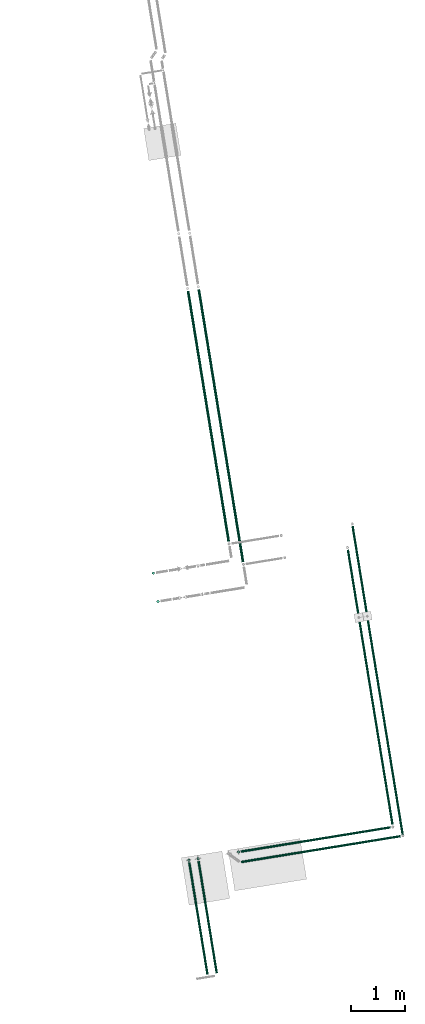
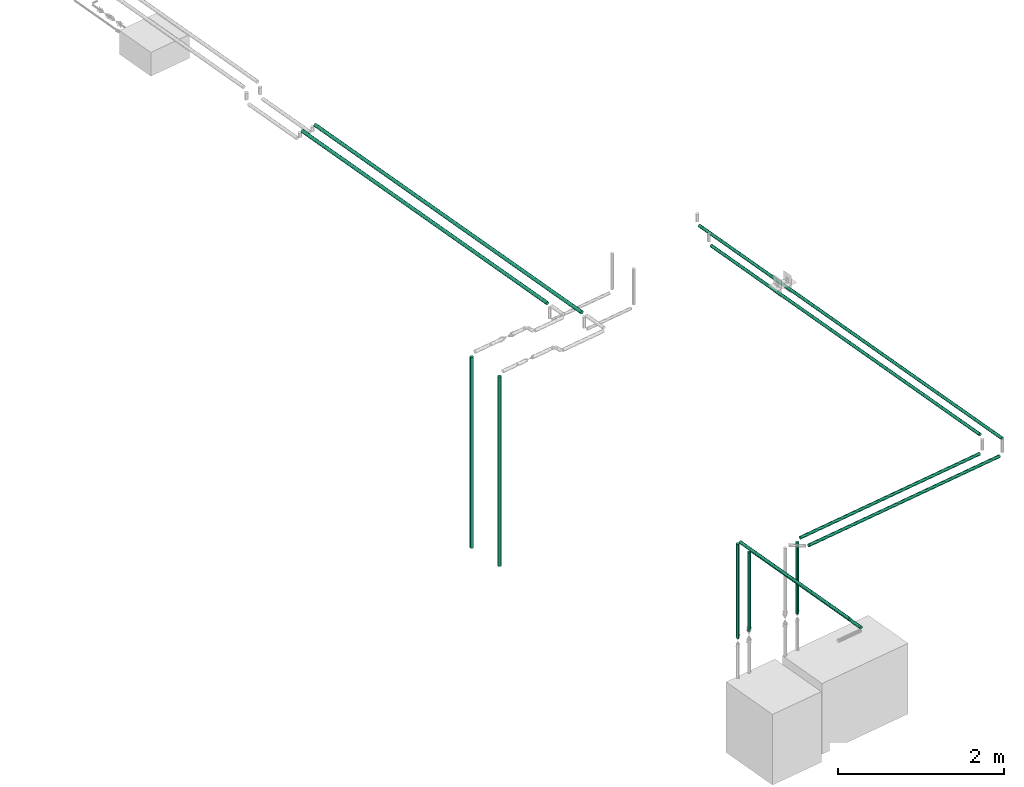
# One storey, part 1 of 10: 13 flow segments.
"""IFC2X3 building model written with IfcOpenShell, lengths in millimetres."""

from ifc_helpers import new_model, entity, si_unit, converted_unit, derived_unit, direction, frame, frame_2d, origin, origin_with_axes, origin_2d_with_axis, place, context, subcontext, project, spatial, circle, extrude, type_object, element, save


model = new_model("IFC2X3")

# Units and contexts
plan_context = context("Plan", 3, precision=1e-05, world=origin_with_axes())
model_context = context("Model", 3, precision=0.01, world=origin(), true_north=direction((6.12323399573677e-17, 1.0)))
body_context = subcontext(model_context, "Body", "Model", "MODEL_VIEW")
ifc_project = project(units=[converted_unit("PLANEANGLEUNIT", "DEGREE", entity("IfcPositiveLengthMeasure", 0.0174532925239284), si_unit("PLANEANGLEUNIT", "RADIAN"), dimensions=[0, 0, 0, 0, 0, 0, 0]), si_unit("AREAUNIT", "SQUARE_METRE"), si_unit("LENGTHUNIT", "METRE", prefix="MILLI"), si_unit("MASSUNIT", "GRAM", prefix="KILO"), si_unit("POWERUNIT", "WATT"), si_unit("PRESSUREUNIT", "PASCAL", prefix="KILO"), si_unit("FORCEUNIT", "NEWTON", prefix="KILO"), si_unit("ELECTRICVOLTAGEUNIT", "VOLT"), si_unit("ELECTRICCURRENTUNIT", "AMPERE"), si_unit("THERMODYNAMICTEMPERATUREUNIT", "DEGREE_CELSIUS"), si_unit("TIMEUNIT", "SECOND"), si_unit("VOLUMEUNIT", "CUBIC_METRE"), derived_unit("LINEARVELOCITYUNIT", [(si_unit("LENGTHUNIT", "METRE"), 1), (si_unit("TIMEUNIT", "SECOND"), -1)]), derived_unit("VOLUMETRICFLOWRATEUNIT", [(si_unit("VOLUMEUNIT", "CUBIC_METRE"), 1), (si_unit("TIMEUNIT", "SECOND"), -1)]), derived_unit("THERMALTRANSMITTANCEUNIT", [(si_unit("POWERUNIT", "WATT"), 1), (si_unit("THERMODYNAMICTEMPERATUREUNIT", "KELVIN"), -1), (si_unit("AREAUNIT", "SQUARE_METRE"), -1)]), derived_unit("SOUNDPRESSUREUNIT", [(si_unit("PRESSUREUNIT", "PASCAL"), 1)])], contexts=[model_context, plan_context])

# Site, building, storey
site_placement = place(None, frame((-0.00071070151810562, 0.00438415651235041, 0.0), z_axis=(0.0, 0.0, 1.0), x_axis=(-0.160236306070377, 0.987078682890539, 0.0)))
site = spatial("IfcSite", under=ifc_project, at=site_placement, Name="Default", CompositionType="ELEMENT")
building_placement = place(site_placement, origin_with_axes())
building = spatial("IfcBuilding", under=site, at=building_placement, CompositionType="ELEMENT")
storey_placement = place(building_placement, frame((0.0, 0.0, 58999.9999999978), z_axis=(0.0, 0.0, 1.0), x_axis=(1.0, 0.0, 0.0)))
storey = spatial("IfcBuildingStorey", under=building, at=storey_placement, Name="Nivå F", CompositionType="ELEMENT", Elevation=58999.9999999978)

# Flow segments
pipe_segment_type = type_object("IfcPipeSegmentType", Name="Pipe Types:Stålrør syrefast AISI 316", PredefinedType="NOTDEFINED")
flow_segment_1_placement = place(storey_placement, origin_with_axes())
element("IfcFlowSegment", 1, at=flow_segment_1_placement, inside=storey, type_object=pipe_segment_type, Name="Pipe Types:Stålrør syrefast AISI 316", ObjectType="Pipe Types:Stålrør syrefast AISI 316", context=body_context, shape_type="SweptSolid", body=[
    extrude(circle(Radius=24.1499996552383, at=frame_2d((0.0, 6.93034962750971e-11), x_axis=(1.0, 0.0))), frame((771386.919644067, -501321.51993202, 40.0000000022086), z_axis=(0.0, 0.0, 1.0), x_axis=(-1.0, 0.0, 0.0)), (0.0, 0.0, 1.0), 2791.5999999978),
])
flow_segment_2_placement = place(storey_placement, origin_with_axes())
element("IfcFlowSegment", 2, at=flow_segment_2_placement, inside=storey, type_object=pipe_segment_type, Name="Pipe Types:Stålrør syrefast AISI 316", ObjectType="Pipe Types:Stålrør syrefast AISI 316", context=body_context, shape_type="SweptSolid", body=[
    extrude(circle(Radius=24.1499996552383, at=frame_2d((0.0, -6.93034962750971e-11), x_axis=(1.0, 0.0))), frame((771916.919644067, -501321.51993202, 20.0000000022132), z_axis=(0.0, 0.0, 1.0), x_axis=(-1.0, 0.0, 0.0)), (0.0, 0.0, 1.0), 2811.59999999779),
])
flow_segment_3_placement = place(storey_placement, origin_with_axes())
element("IfcFlowSegment", 3, at=flow_segment_3_placement, inside=storey, type_object=pipe_segment_type, Name="Pipe Types:Stålrør syrefast AISI 316", ObjectType="Pipe Types:Stålrør syrefast AISI 316", context=body_context, shape_type="SweptSolid", body=[
    extrude(circle(Radius=24.1499996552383, at=frame_2d((6.93034962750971e-11, 0.0), x_axis=(1.0, 0.0))), frame((772266.497050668, -502784.454093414, 2780.0), z_axis=(1.0, 0.0, 0.0), x_axis=(0.0, -1.0, 0.0)), (0.0, 0.0, 1.0), 4675.39864344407),
])
flow_segment_4_placement = place(storey_placement, origin_with_axes())
element("IfcFlowSegment", 4, at=flow_segment_4_placement, inside=storey, type_object=pipe_segment_type, Name="Pipe Types:Stålrør syrefast AISI 316", ObjectType="Pipe Types:Stålrør syrefast AISI 316", context=body_context, shape_type="SweptSolid", body=[
    extrude(circle(Radius=24.1499996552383, at=origin_2d_with_axis()), frame((771852.067229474, -502984.454093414, 2780.0), z_axis=(1.0, 0.0, 0.0), x_axis=(0.0, -1.0, 0.0)), (0.0, 0.0, 1.0), 5089.82846463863),
])
flow_segment_5_placement = place(storey_placement, origin_with_axes())
element("IfcFlowSegment", 5, at=flow_segment_5_placement, inside=storey, type_object=pipe_segment_type, Name="Pipe Types:Stålrør syrefast AISI 316", ObjectType="Pipe Types:Stålrør syrefast AISI 316", context=body_context, shape_type="SweptSolid", body=[
    extrude(circle(Radius=21.2000007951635, at=frame_2d((-6.93034962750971e-11, 0.0), x_axis=(1.0, 0.0))), frame((764454.368589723, -501120.3746416, 3100.0), z_axis=(1.0, 0.0, 0.0), x_axis=(0.0, -1.0, 0.0)), (0.0, 0.0, 1.0), 2095.20000000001),
])
flow_segment_6_placement = place(storey_placement, origin_with_axes())
element("IfcFlowSegment", 6, at=flow_segment_6_placement, inside=storey, type_object=pipe_segment_type, Name="Pipe Types:Stålrør syrefast AISI 316", ObjectType="Pipe Types:Stålrør syrefast AISI 316", context=body_context, shape_type="SweptSolid", body=[
    extrude(circle(Radius=21.2000007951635, at=origin_2d_with_axis()), frame((764454.368589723, -501293.064801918, 2900.0), z_axis=(1.0, 0.0, 0.0), x_axis=(0.0, -1.0, 0.0)), (0.0, 0.0, 1.0), 2095.20000000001),
])
flow_segment_7_placement = place(storey_placement, origin_with_axes())
element("IfcFlowSegment", 7, at=flow_segment_7_placement, inside=storey, type_object=pipe_segment_type, Name="Pipe Types:Stålrør syrefast AISI 316", ObjectType="Pipe Types:Stålrør syrefast AISI 316", context=body_context, shape_type="SweptSolid", body=[
    extrude(circle(Radius=21.2000007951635, at=origin_2d_with_axis()), frame((766591.968589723, -501120.3746416, 1665.50142748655)), (0.0, 0.0, 1.0), 1392.09857251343),
])
flow_segment_8_placement = place(storey_placement, origin_with_axes())
element("IfcFlowSegment", 8, at=flow_segment_8_placement, inside=storey, type_object=pipe_segment_type, Name="Pipe Types:Stålrør syrefast AISI 316", ObjectType="Pipe Types:Stålrør syrefast AISI 316", context=body_context, shape_type="SweptSolid", body=[
    extrude(circle(Radius=21.2000007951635, at=origin_2d_with_axis()), frame((766591.968589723, -501293.064801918, 1697.22115136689)), (0.0, 0.0, 1.0), 1160.37884863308),
])
flow_segment_9_placement = place(storey_placement, origin_with_axes())
element("IfcFlowSegment", 9, at=flow_segment_9_placement, inside=storey, type_object=pipe_segment_type, Name="Pipe Types:Stålrør syrefast AISI 316", ObjectType="Pipe Types:Stålrør syrefast AISI 316", context=body_context, shape_type="SweptSolid", body=[
    extrude(circle(Radius=21.2000007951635, at=origin_2d_with_axis()), frame((766594.059199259, -504884.62828872, 2710.0), z_axis=(0.0, 1.0, 0.0), x_axis=(1.0, 0.0, 0.0)), (0.0, 0.0, 1.0), 2795.19999999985),
])
flow_segment_10_placement = place(storey_placement, origin_with_axes())
element("IfcFlowSegment", 10, at=flow_segment_10_placement, inside=storey, type_object=pipe_segment_type, Name="Pipe Types:Stålrør syrefast AISI 316", ObjectType="Pipe Types:Stålrør syrefast AISI 316", context=body_context, shape_type="SweptSolid", body=[
    extrude(circle(Radius=21.2000007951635, at=origin_2d_with_axis()), frame((766636.459199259, -504927.02828872, 2950.0), z_axis=(1.0, 0.0, 0.0), x_axis=(0.0, 1.0, 0.0)), (0.0, 0.0, 1.0), 5130.80803021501),
])
flow_segment_11_placement = place(storey_placement, origin_with_axes())
element("IfcFlowSegment", 11, at=flow_segment_11_placement, inside=storey, type_object=pipe_segment_type, Name="Pipe Types:Stålrør syrefast AISI 316", ObjectType="Pipe Types:Stålrør syrefast AISI 316", context=body_context, shape_type="SweptSolid", body=[
    extrude(circle(Radius=21.2000007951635, at=origin_2d_with_axis()), frame((766403.824999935, -505040.144854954, 2710.0), z_axis=(0.0, 1.0, 0.0), x_axis=(1.0, 0.0, 0.0)), (0.0, 0.0, 1.0), 2975.55391118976),
])
flow_segment_12_placement = place(storey_placement, origin_with_axes())
element("IfcFlowSegment", 12, at=flow_segment_12_placement, inside=storey, type_object=pipe_segment_type, Name="Pipe Types:Stålrør syrefast AISI 316", ObjectType="Pipe Types:Stålrør syrefast AISI 316", context=body_context, shape_type="SweptSolid", body=[
    extrude(circle(Radius=21.2000007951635, at=origin_2d_with_axis()), frame((766403.824999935, -505082.544854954, 2950.0), z_axis=(1.0, 0.0, 0.0), x_axis=(0.0, 1.0, 0.0)), (0.0, 0.0, 1.0), 5777.87205073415),
])
flow_segment_13_placement = place(storey_placement, origin_with_axes())
element("IfcFlowSegment", 13, at=flow_segment_13_placement, inside=storey, type_object=pipe_segment_type, Name="Pipe Types:Stålrør syrefast AISI 316", ObjectType="Pipe Types:Stålrør syrefast AISI 316", context=body_context, shape_type="SweptSolid", body=[
    extrude(circle(Radius=21.2000007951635, at=frame_2d((0.0, -6.93034962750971e-11), x_axis=(1.0, 0.0))), frame((766594.059199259, -502047.02828872, 1613.7211513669)), (0.0, 0.0, 1.0), 1053.87884863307),
])

save(model, "model.ifc")
